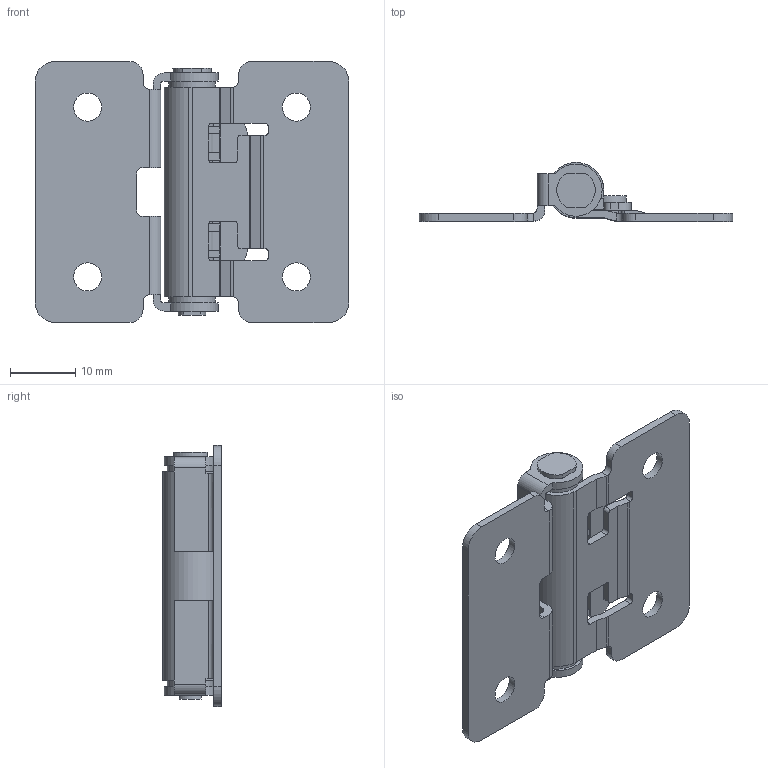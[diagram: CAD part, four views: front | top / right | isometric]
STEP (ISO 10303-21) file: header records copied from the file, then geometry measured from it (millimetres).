
FILE_DESCRIPTION(/* description */ ('STEP AP203'),/* implementation_level */ '2;1');
FILE_NAME(/* name */ 'HHPT7',/* time_stamp */ '2023-12-04T08:17:59+01:00',/* author */ ('License CC BY-ND 4.0'),/* organization */ ('CADENAS'),/* preprocessor_version */ 'ST-DEVELOPER v19.3',/* originating_system */ 'PARTsolutions',/* authorisation */ ' ');
FILE_SCHEMA (('CONFIG_CONTROL_DESIGN'));
Length unit declared in the file: millimetre
Products named in the file (3): HHPT7; HHPT7_p; HHPT7_b
Assembly tree (2 placements, depth 2):
  HHPT7
    HHPT7_p
    HHPT7_b
Bounding box: 48 x 9 x 40 mm (x, y, z)
Volume: 4028.8 mm3; surface area: 6207.7 mm2
Topology: 2 solids, 2 shells, 161 faces, 476 edges, 316 vertices
Faces by surface type: plane 96, cylinder 65
Full cylindrical faces by diameter (mm): 4.3 x4, 5.9 x2, 7.05 x1
Entity records: 5447 total; most frequent: CARTESIAN_POINT 964, DIRECTION 930, ORIENTED_EDGE 928, EDGE_CURVE 464, VERTEX_POINT 312, LINE 310, VECTOR 310, AXIS2_PLACEMENT_3D 310
